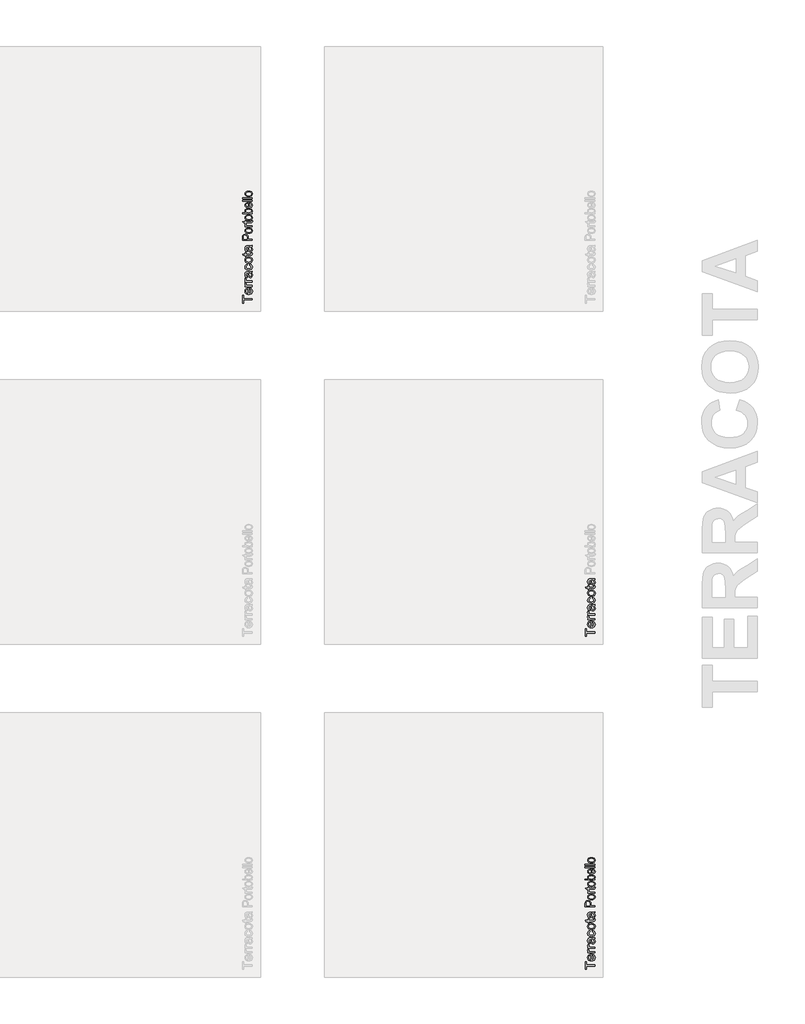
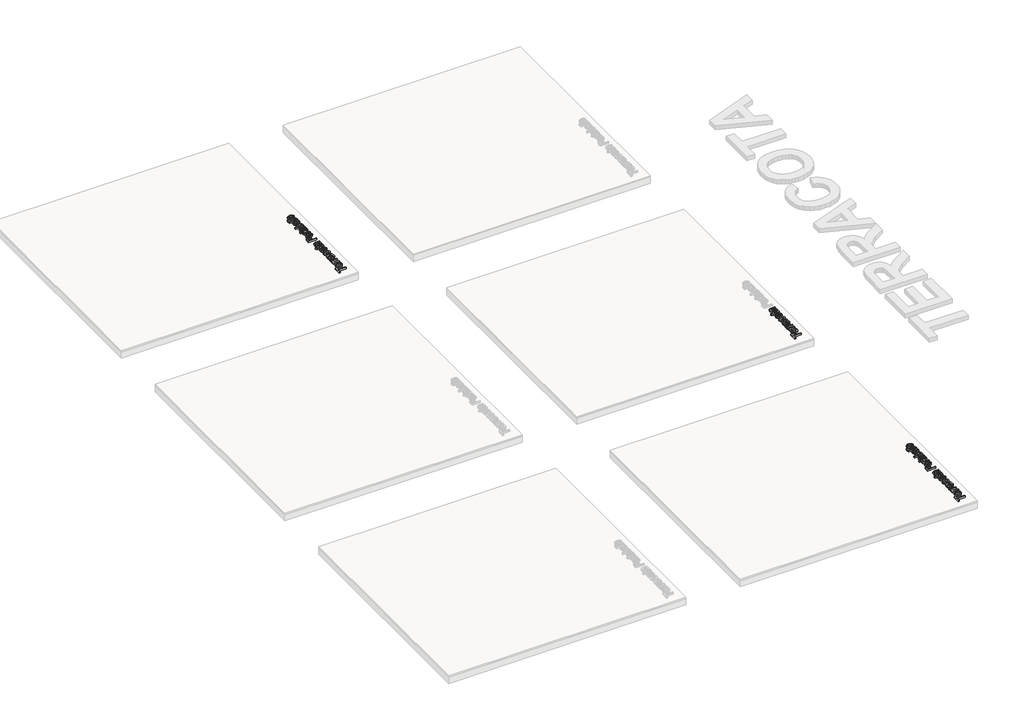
# One storey, part 10 of 12: 5 proxies.
"""IFC4 building model written with IfcOpenShell, lengths in millimetres."""

from ifc_helpers import new_model, si_unit, frame, origin, place, context, project, spatial, polyline, outline, extrude, element, save

model = new_model("IFC4")

# Units and contexts
model_context = context("Model", 3, world=origin())
ifc_project = project(units=[si_unit("LENGTHUNIT", "METRE", prefix="MILLI")], contexts=[model_context])

# Site, building, storey
site = spatial("IfcSite", under=ifc_project)
building = spatial("IfcBuilding", under=site)
storey = spatial("IfcBuildingStorey", under=building, Name="PORTOBELLO - SHOWROOM", Elevation=0.0)

# Proxies
placement = place(None, origin())
element("IfcBuildingElementProxy", 1, Name="10mm Arial", ObjectType="10mm Arial", at=placement, inside=storey, context=model_context, shape_type="SweptSolid", body=[
    extrude(outline(polyline([(-15769.6004774, 1957.1715522), (-15857.4997488, 1957.1715522), (-15857.4997488, 1924.2093254), (-15870.0567876, 1924.2093254), (-15870.0567876, 2002.6908177), (-15857.4997488, 2002.6908177), (-15857.4997488, 1969.7285909), (-15769.6004774, 1969.7285909), (-15769.6004774, 1957.1715522)])), frame((0.0, 0.0, 17.0), z_axis=(0.0, 0.0, 1.0), x_axis=(1.0, 0.0, 0.0)), (0.0, 0.0, 1.0), 20.0),
    extrude(outline(polyline([(-15791.5752953, 2066.8984886), (-15790.0056654, 2079.2102727), (-15780.7289078, 2074.774229), (-15773.7943322, 2067.6955663), (-15769.4717187, 2058.1337001), (-15768.0308476, 2046.2480459), (-15770.5171167, 2031.514372), (-15777.9759242, 2020.1774752), (-15789.922892, 2012.948594), (-15805.8736422, 2010.5389669), (-15822.3608869, 2012.9731195), (-15834.6910651, 2020.2755771), (-15842.3797988, 2031.4591897), (-15844.94271, 2045.5368074), (-15842.3859302, 2059.1760324), (-15834.7155906, 2070.0745365), (-15822.4099378, 2077.2206442), (-15805.9472185, 2079.6026802), (-15802.5627042, 2079.5291038), (-15802.5627042, 2023.0960057), (-15793.1633192, 2025.2695752), (-15786.2532691, 2030.3187555), (-15782.004232, 2037.6058847), (-15780.5878863, 2046.4933006), (-15783.2121112, 2058.8050847), (-15791.5752953, 2066.8984886)]), holes=[polyline([(-15815.119743, 2023.0960057), (-15815.119743, 2067.0456414), (-15826.4995593, 2062.0179208), (-15830.9141433, 2054.6970691), (-15832.3856713, 2045.4877565), (-15827.6890445, 2030.02445), (-15822.1984057, 2025.1592106), (-15815.119743, 2023.0960057)])]), frame((0.0, 0.0, 17.0), z_axis=(0.0, 0.0, 1.0), x_axis=(1.0, 0.0, 0.0)), (0.0, 0.0, 1.0), 20.0),
    extrude(outline(polyline([(-15769.6004774, 2092.1597189), (-15843.3730802, 2092.1597189), (-15843.3730802, 2103.1471279), (-15832.4592477, 2103.1471279), (-15842.5146889, 2110.9462262), (-15844.94271, 2118.7943754), (-15841.0676864, 2131.4004651), (-15829.8104973, 2127.2066103), (-15832.3856713, 2118.3774425), (-15829.9085992, 2111.27732), (-15823.0414686, 2106.7523714), (-15808.3752397, 2104.7167577), (-15769.6004774, 2104.7167577), (-15769.6004774, 2092.1597189)])), frame((0.0, 0.0, 17.0), z_axis=(0.0, 0.0, 1.0), x_axis=(1.0, 0.0, 0.0)), (0.0, 0.0, 1.0), 20.0),
    extrude(outline(polyline([(-15769.6004774, 2139.2486143), (-15843.3730802, 2139.2486143), (-15843.3730802, 2150.2360232), (-15832.4592477, 2150.2360232), (-15842.5146889, 2158.0351215), (-15844.94271, 2165.8832708), (-15841.0676864, 2178.4893605), (-15829.8104973, 2174.2955057), (-15832.3856713, 2165.4663378), (-15829.9085992, 2158.3662153), (-15823.0414686, 2153.8412668), (-15808.3752397, 2151.8056531), (-15769.6004774, 2151.8056531), (-15769.6004774, 2139.2486143)])), frame((0.0, 0.0, 17.0), z_axis=(0.0, 0.0, 1.0), x_axis=(1.0, 0.0, 0.0)), (0.0, 0.0, 1.0), 20.0),
    extrude(outline(polyline([(-15779.0182565, 2233.4264051), (-15770.5079197, 2221.249511), (-15768.0308476, 2207.7972928), (-15769.5207697, 2197.3034588), (-15773.9905359, 2189.5626085), (-15780.7779587, 2184.7893396), (-15789.2208505, 2183.19825), (-15799.1536644, 2185.6017457), (-15806.3641515, 2191.9170533), (-15810.4844298, 2200.709433), (-15812.3728907, 2211.5742146), (-15816.6893728, 2233.3528287), (-15819.485276, 2233.4264051), (-15828.7559023, 2229.9683143), (-15832.3856713, 2216.0869004), (-15829.9699128, 2203.3827088), (-15821.3982623, 2197.3249186), (-15822.9678922, 2184.7678799), (-15835.2306254, 2190.2002707), (-15842.416587, 2201.1386286), (-15844.94271, 2217.7055812), (-15842.7108926, 2232.923633), (-15837.1068235, 2241.519809), (-15828.584224, 2245.3703072), (-15817.5968151, 2245.9834439), (-15801.974093, 2245.9834439), (-15780.1586907, 2246.621106), (-15769.6004774, 2249.1227035), (-15769.6004774, 2236.5656648), (-15779.0182565, 2233.4264051)]), holes=[polyline([(-15804.132334, 2233.4264051), (-15800.2818358, 2213.1683699), (-15798.2462221, 2202.364902), (-15794.9352842, 2197.4720714), (-15790.1037673, 2195.7552888), (-15783.3102131, 2199.4954224), (-15780.5878863, 2210.4705686), (-15783.592256, 2223.1747602), (-15790.8640567, 2231.3662659), (-15800.5761414, 2233.3528287), (-15804.132334, 2233.4264051)])]), frame((0.0, 0.0, 17.0), z_axis=(0.0, 0.0, 1.0), x_axis=(1.0, 0.0, 0.0)), (0.0, 0.0, 1.0), 20.0),
    extrude(outline(polyline([(-15796.2841848, 2310.3382675), (-15794.714555, 2322.8953063), (-15783.5462707, 2319.394296), (-15775.1064446, 2312.8153396), (-15769.7997468, 2303.7777053), (-15768.0308476, 2292.900661), (-15770.4987226, 2279.5434789), (-15777.9023478, 2269.0986959), (-15789.9167606, 2262.3572583), (-15806.2169987, 2260.1101125), (-15827.0759078, 2263.948348), (-15840.4790752, 2275.6469954), (-15844.94271, 2292.7289827), (-15843.4098684, 2303.3393126), (-15838.8113435, 2311.8220583), (-15831.3923899, 2317.9074396), (-15821.3982623, 2321.3256765), (-15819.8286325, 2308.7686377), (-15829.2341488, 2302.9438394), (-15832.3856713, 2292.8270846), (-15830.8344355, 2284.7122209), (-15826.1807283, 2278.2712203), (-15818.1731635, 2274.0681685), (-15806.5603552, 2272.6671512), (-15794.791197, 2274.0375117), (-15786.7560411, 2278.148593), (-15782.129925, 2284.4730976), (-15780.5878863, 2292.483728), (-15784.4383846, 2304.3172656), (-15796.2841848, 2310.3382675)])), frame((0.0, 0.0, 17.0), z_axis=(0.0, 0.0, 1.0), x_axis=(1.0, 0.0, 0.0)), (0.0, 0.0, 1.0), 20.0),
    extrude(outline(polyline([(-15806.4867788, 2330.7434555), (-15824.2738733, 2333.4596509), (-15836.7757297, 2341.6082371), (-15842.900965, 2351.6759411), (-15844.94271, 2363.7302078), (-15842.4564409, 2376.921843), (-15834.9976334, 2387.4585965), (-15823.1548989, 2394.3655809), (-15807.5168484, 2396.6679091), (-15785.1741486, 2392.5966817), (-15772.5312707, 2380.7386187), (-15768.0308476, 2363.7302078), (-15770.5079197, 2350.379157), (-15777.939136, 2339.8546663), (-15790.0301909, 2333.0212582), (-15806.4867788, 2330.7434555)]), holes=[polyline([(-15806.5113043, 2343.3004943), (-15795.1468163, 2344.7536282), (-15787.0503467, 2349.1130298), (-15782.2035014, 2355.6735921), (-15780.5878863, 2363.7302078), (-15782.2126985, 2371.7500353), (-15787.0871349, 2378.2983348), (-15795.2909034, 2382.6577364), (-15806.9037117, 2384.1108703), (-15817.9371059, 2382.6485394), (-15825.9232109, 2378.2615466), (-15830.7700562, 2371.70405), (-15832.3856713, 2363.7302078), (-15830.7761875, 2355.6735921), (-15825.9477364, 2349.1130298), (-15817.8696609, 2344.7536282), (-15806.5113043, 2343.3004943)])]), frame((0.0, 0.0, 17.0), z_axis=(0.0, 0.0, 1.0), x_axis=(1.0, 0.0, 0.0)), (0.0, 0.0, 1.0), 20.0),
    extrude(outline(polyline([(-15780.0728516, 2437.4782851), (-15769.2325954, 2439.0479149), (-15768.0308476, 2429.6546613), (-15770.1155122, 2419.1332363), (-15775.5846912, 2413.8847865), (-15789.8339872, 2412.3642075), (-15830.8160414, 2412.3642075), (-15830.8160414, 2402.9464285), (-15843.3730802, 2402.9464285), (-15843.3730802, 2412.3642075), (-15861.3011961, 2412.3642075), (-15868.6833615, 2424.9212463), (-15843.3730802, 2424.9212463), (-15843.3730802, 2437.4782851), (-15830.8160414, 2437.4782851), (-15830.8160414, 2424.9212463), (-15790.2018692, 2424.9212463), (-15783.727146, 2425.5834339), (-15781.4340149, 2427.7294122), (-15780.5878863, 2432.0091061), (-15780.0728516, 2437.4782851)])), frame((0.0, 0.0, 17.0), z_axis=(0.0, 0.0, 1.0), x_axis=(1.0, 0.0, 0.0)), (0.0, 0.0, 1.0), 20.0),
    extrude(outline(polyline([(-15779.0182565, 2497.1242192), (-15770.5079197, 2484.9473252), (-15768.0308476, 2471.4951069), (-15769.5207697, 2461.001273), (-15773.9905359, 2453.2604227), (-15780.7779587, 2448.4871538), (-15789.2208505, 2446.8960642), (-15799.1536644, 2449.2995599), (-15806.3641515, 2455.6148674), (-15810.4844298, 2464.4072471), (-15812.3728907, 2475.2720287), (-15816.6893728, 2497.0506428), (-15819.485276, 2497.1242192), (-15828.7559023, 2493.6661285), (-15832.3856713, 2479.7847145), (-15829.9699128, 2467.080523), (-15821.3982623, 2461.0227328), (-15822.9678922, 2448.465694), (-15835.2306254, 2453.8980848), (-15842.416587, 2464.8364428), (-15844.94271, 2481.4033953), (-15842.7108926, 2496.6214472), (-15837.1068235, 2505.2176231), (-15828.584224, 2509.0681213), (-15817.5968151, 2509.681258), (-15801.974093, 2509.681258), (-15780.1586907, 2510.3189201), (-15769.6004774, 2512.8205177), (-15769.6004774, 2500.2634789), (-15779.0182565, 2497.1242192)]), holes=[polyline([(-15804.132334, 2497.1242192), (-15800.2818358, 2476.866184), (-15798.2462221, 2466.0627161), (-15794.9352842, 2461.1698856), (-15790.1037673, 2459.4531029), (-15783.3102131, 2463.1932365), (-15780.5878863, 2474.1683827), (-15783.592256, 2486.8725743), (-15790.8640567, 2495.0640801), (-15800.5761414, 2497.0506428), (-15804.132334, 2497.1242192)])]), frame((0.0, 0.0, 17.0), z_axis=(0.0, 0.0, 1.0), x_axis=(1.0, 0.0, 0.0)), (0.0, 0.0, 1.0), 20.0),
])
element("IfcBuildingElementProxy", 2, Name="10mm Arial", ObjectType="10mm Arial", at=placement, inside=storey, context=model_context, shape_type="SweptSolid", body=[
    extrude(outline(polyline([(-19269.6004774, 8757.1715522), (-19357.4997488, 8757.1715522), (-19357.4997488, 8724.2093254), (-19370.0567876, 8724.2093254), (-19370.0567876, 8802.6908177), (-19357.4997488, 8802.6908177), (-19357.4997488, 8769.7285909), (-19269.6004774, 8769.7285909), (-19269.6004774, 8757.1715522)])), frame((0.0, 0.0, 17.0), z_axis=(0.0, 0.0, 1.0), x_axis=(1.0, 0.0, 0.0)), (0.0, 0.0, 1.0), 20.0),
    extrude(outline(polyline([(-19291.5752953, 8866.8984886), (-19290.0056654, 8879.2102727), (-19280.7289078, 8874.774229), (-19273.7943322, 8867.6955663), (-19269.4717187, 8858.1337001), (-19268.0308476, 8846.2480459), (-19270.5171167, 8831.514372), (-19277.9759242, 8820.1774752), (-19289.922892, 8812.948594), (-19305.8736422, 8810.5389669), (-19322.3608869, 8812.9731195), (-19334.6910651, 8820.2755771), (-19342.3797988, 8831.4591897), (-19344.94271, 8845.5368074), (-19342.3859302, 8859.1760324), (-19334.7155906, 8870.0745365), (-19322.4099378, 8877.2206442), (-19305.9472185, 8879.6026802), (-19302.5627042, 8879.5291038), (-19302.5627042, 8823.0960057), (-19293.1633192, 8825.2695752), (-19286.2532691, 8830.3187555), (-19282.004232, 8837.6058847), (-19280.5878863, 8846.4933006), (-19283.2121112, 8858.8050847), (-19291.5752953, 8866.8984886)]), holes=[polyline([(-19315.119743, 8823.0960057), (-19315.119743, 8867.0456414), (-19326.4995593, 8862.0179208), (-19330.9141433, 8854.6970691), (-19332.3856713, 8845.4877565), (-19327.6890445, 8830.02445), (-19322.1984057, 8825.1592106), (-19315.119743, 8823.0960057)])]), frame((0.0, 0.0, 17.0), z_axis=(0.0, 0.0, 1.0), x_axis=(1.0, 0.0, 0.0)), (0.0, 0.0, 1.0), 20.0),
    extrude(outline(polyline([(-19269.6004774, 8892.1597189), (-19343.3730802, 8892.1597189), (-19343.3730802, 8903.1471279), (-19332.4592477, 8903.1471279), (-19342.5146889, 8910.9462262), (-19344.94271, 8918.7943754), (-19341.0676864, 8931.4004651), (-19329.8104973, 8927.2066103), (-19332.3856713, 8918.3774425), (-19329.9085992, 8911.27732), (-19323.0414686, 8906.7523714), (-19308.3752397, 8904.7167577), (-19269.6004774, 8904.7167577), (-19269.6004774, 8892.1597189)])), frame((0.0, 0.0, 17.0), z_axis=(0.0, 0.0, 1.0), x_axis=(1.0, 0.0, 0.0)), (0.0, 0.0, 1.0), 20.0),
    extrude(outline(polyline([(-19269.6004774, 8939.2486143), (-19343.3730802, 8939.2486143), (-19343.3730802, 8950.2360232), (-19332.4592477, 8950.2360232), (-19342.5146889, 8958.0351215), (-19344.94271, 8965.8832708), (-19341.0676864, 8978.4893605), (-19329.8104973, 8974.2955057), (-19332.3856713, 8965.4663378), (-19329.9085992, 8958.3662153), (-19323.0414686, 8953.8412668), (-19308.3752397, 8951.8056531), (-19269.6004774, 8951.8056531), (-19269.6004774, 8939.2486143)])), frame((0.0, 0.0, 17.0), z_axis=(0.0, 0.0, 1.0), x_axis=(1.0, 0.0, 0.0)), (0.0, 0.0, 1.0), 20.0),
    extrude(outline(polyline([(-19279.0182565, 9033.4264051), (-19270.5079197, 9021.249511), (-19268.0308476, 9007.7972928), (-19269.5207697, 8997.3034588), (-19273.9905359, 8989.5626085), (-19280.7779587, 8984.7893396), (-19289.2208505, 8983.19825), (-19299.1536644, 8985.6017457), (-19306.3641515, 8991.9170533), (-19310.4844298, 9000.709433), (-19312.3728907, 9011.5742146), (-19316.6893728, 9033.3528287), (-19319.485276, 9033.4264051), (-19328.7559023, 9029.9683143), (-19332.3856713, 9016.0869004), (-19329.9699128, 9003.3827088), (-19321.3982623, 8997.3249186), (-19322.9678922, 8984.7678799), (-19335.2306254, 8990.2002707), (-19342.416587, 9001.1386286), (-19344.94271, 9017.7055812), (-19342.7108926, 9032.923633), (-19337.1068235, 9041.519809), (-19328.584224, 9045.3703072), (-19317.5968151, 9045.9834439), (-19301.974093, 9045.9834439), (-19280.1586907, 9046.621106), (-19269.6004774, 9049.1227035), (-19269.6004774, 9036.5656648), (-19279.0182565, 9033.4264051)]), holes=[polyline([(-19304.132334, 9033.4264051), (-19300.2818358, 9013.1683699), (-19298.2462221, 9002.364902), (-19294.9352842, 8997.4720714), (-19290.1037673, 8995.7552888), (-19283.3102131, 8999.4954224), (-19280.5878863, 9010.4705686), (-19283.592256, 9023.1747602), (-19290.8640567, 9031.3662659), (-19300.5761414, 9033.3528287), (-19304.132334, 9033.4264051)])]), frame((0.0, 0.0, 17.0), z_axis=(0.0, 0.0, 1.0), x_axis=(1.0, 0.0, 0.0)), (0.0, 0.0, 1.0), 20.0),
    extrude(outline(polyline([(-19296.2841848, 9110.3382675), (-19294.714555, 9122.8953063), (-19283.5462707, 9119.394296), (-19275.1064446, 9112.8153396), (-19269.7997468, 9103.7777053), (-19268.0308476, 9092.900661), (-19270.4987226, 9079.5434789), (-19277.9023478, 9069.0986959), (-19289.9167606, 9062.3572583), (-19306.2169987, 9060.1101125), (-19327.0759078, 9063.948348), (-19340.4790752, 9075.6469954), (-19344.94271, 9092.7289827), (-19343.4098684, 9103.3393126), (-19338.8113435, 9111.8220583), (-19331.3923899, 9117.9074396), (-19321.3982623, 9121.3256765), (-19319.8286325, 9108.7686377), (-19329.2341488, 9102.9438394), (-19332.3856713, 9092.8270846), (-19330.8344355, 9084.7122209), (-19326.1807283, 9078.2712203), (-19318.1731635, 9074.0681685), (-19306.5603552, 9072.6671512), (-19294.791197, 9074.0375117), (-19286.7560411, 9078.148593), (-19282.129925, 9084.4730976), (-19280.5878863, 9092.483728), (-19284.4383846, 9104.3172656), (-19296.2841848, 9110.3382675)])), frame((0.0, 0.0, 17.0), z_axis=(0.0, 0.0, 1.0), x_axis=(1.0, 0.0, 0.0)), (0.0, 0.0, 1.0), 20.0),
    extrude(outline(polyline([(-19306.4867788, 9130.7434555), (-19324.2738733, 9133.4596509), (-19336.7757297, 9141.6082371), (-19342.900965, 9151.6759411), (-19344.94271, 9163.7302078), (-19342.4564409, 9176.921843), (-19334.9976334, 9187.4585965), (-19323.1548989, 9194.3655809), (-19307.5168484, 9196.6679091), (-19285.1741486, 9192.5966817), (-19272.5312707, 9180.7386187), (-19268.0308476, 9163.7302078), (-19270.5079197, 9150.379157), (-19277.939136, 9139.8546663), (-19290.0301909, 9133.0212582), (-19306.4867788, 9130.7434555)]), holes=[polyline([(-19306.5113043, 9143.3004943), (-19295.1468163, 9144.7536282), (-19287.0503467, 9149.1130298), (-19282.2035014, 9155.6735921), (-19280.5878863, 9163.7302078), (-19282.2126985, 9171.7500353), (-19287.0871349, 9178.2983348), (-19295.2909034, 9182.6577364), (-19306.9037117, 9184.1108703), (-19317.9371059, 9182.6485394), (-19325.9232109, 9178.2615466), (-19330.7700562, 9171.70405), (-19332.3856713, 9163.7302078), (-19330.7761875, 9155.6735921), (-19325.9477364, 9149.1130298), (-19317.8696609, 9144.7536282), (-19306.5113043, 9143.3004943)])]), frame((0.0, 0.0, 17.0), z_axis=(0.0, 0.0, 1.0), x_axis=(1.0, 0.0, 0.0)), (0.0, 0.0, 1.0), 20.0),
    extrude(outline(polyline([(-19280.0728516, 9237.4782851), (-19269.2325954, 9239.0479149), (-19268.0308476, 9229.6546613), (-19270.1155122, 9219.1332363), (-19275.5846912, 9213.8847865), (-19289.8339872, 9212.3642075), (-19330.8160414, 9212.3642075), (-19330.8160414, 9202.9464285), (-19343.3730802, 9202.9464285), (-19343.3730802, 9212.3642075), (-19361.3011961, 9212.3642075), (-19368.6833615, 9224.9212463), (-19343.3730802, 9224.9212463), (-19343.3730802, 9237.4782851), (-19330.8160414, 9237.4782851), (-19330.8160414, 9224.9212463), (-19290.2018692, 9224.9212463), (-19283.727146, 9225.5834339), (-19281.4340149, 9227.7294122), (-19280.5878863, 9232.0091061), (-19280.0728516, 9237.4782851)])), frame((0.0, 0.0, 17.0), z_axis=(0.0, 0.0, 1.0), x_axis=(1.0, 0.0, 0.0)), (0.0, 0.0, 1.0), 20.0),
    extrude(outline(polyline([(-19279.0182565, 9297.1242192), (-19270.5079197, 9284.9473252), (-19268.0308476, 9271.4951069), (-19269.5207697, 9261.001273), (-19273.9905359, 9253.2604227), (-19280.7779587, 9248.4871538), (-19289.2208505, 9246.8960642), (-19299.1536644, 9249.2995599), (-19306.3641515, 9255.6148674), (-19310.4844298, 9264.4072471), (-19312.3728907, 9275.2720287), (-19316.6893728, 9297.0506428), (-19319.485276, 9297.1242192), (-19328.7559023, 9293.6661285), (-19332.3856713, 9279.7847145), (-19329.9699128, 9267.080523), (-19321.3982623, 9261.0227328), (-19322.9678922, 9248.465694), (-19335.2306254, 9253.8980848), (-19342.416587, 9264.8364428), (-19344.94271, 9281.4033953), (-19342.7108926, 9296.6214472), (-19337.1068235, 9305.2176231), (-19328.584224, 9309.0681213), (-19317.5968151, 9309.681258), (-19301.974093, 9309.681258), (-19280.1586907, 9310.3189201), (-19269.6004774, 9312.8205177), (-19269.6004774, 9300.2634789), (-19279.0182565, 9297.1242192)]), holes=[polyline([(-19304.132334, 9297.1242192), (-19300.2818358, 9276.866184), (-19298.2462221, 9266.0627161), (-19294.9352842, 9261.1698856), (-19290.1037673, 9259.4531029), (-19283.3102131, 9263.1932365), (-19280.5878863, 9274.1683827), (-19283.592256, 9286.8725743), (-19290.8640567, 9295.0640801), (-19300.5761414, 9297.0506428), (-19304.132334, 9297.1242192)])]), frame((0.0, 0.0, 17.0), z_axis=(0.0, 0.0, 1.0), x_axis=(1.0, 0.0, 0.0)), (0.0, 0.0, 1.0), 20.0),
])
element("IfcBuildingElementProxy", 3, Name="10mm Arial", ObjectType="10mm Arial", at=placement, inside=storey, context=model_context, shape_type="SweptSolid", body=[
    extrude(outline(polyline([(-15769.6004774, 5357.1715522), (-15857.4997488, 5357.1715522), (-15857.4997488, 5324.2093254), (-15870.0567876, 5324.2093254), (-15870.0567876, 5402.6908177), (-15857.4997488, 5402.6908177), (-15857.4997488, 5369.7285909), (-15769.6004774, 5369.7285909), (-15769.6004774, 5357.1715522)])), frame((0.0, 0.0, 17.0), z_axis=(0.0, 0.0, 1.0), x_axis=(1.0, 0.0, 0.0)), (0.0, 0.0, 1.0), 20.0),
    extrude(outline(polyline([(-15791.5752953, 5466.8984886), (-15790.0056654, 5479.2102727), (-15780.7289078, 5474.774229), (-15773.7943322, 5467.6955663), (-15769.4717187, 5458.1337001), (-15768.0308476, 5446.2480459), (-15770.5171167, 5431.514372), (-15777.9759242, 5420.1774752), (-15789.922892, 5412.948594), (-15805.8736422, 5410.5389669), (-15822.3608869, 5412.9731195), (-15834.6910651, 5420.2755771), (-15842.3797988, 5431.4591897), (-15844.94271, 5445.5368074), (-15842.3859302, 5459.1760324), (-15834.7155906, 5470.0745365), (-15822.4099378, 5477.2206442), (-15805.9472185, 5479.6026802), (-15802.5627042, 5479.5291038), (-15802.5627042, 5423.0960057), (-15793.1633192, 5425.2695752), (-15786.2532691, 5430.3187555), (-15782.004232, 5437.6058847), (-15780.5878863, 5446.4933006), (-15783.2121112, 5458.8050847), (-15791.5752953, 5466.8984886)]), holes=[polyline([(-15815.119743, 5423.0960057), (-15815.119743, 5467.0456414), (-15826.4995593, 5462.0179208), (-15830.9141433, 5454.6970691), (-15832.3856713, 5445.4877565), (-15827.6890445, 5430.02445), (-15822.1984057, 5425.1592106), (-15815.119743, 5423.0960057)])]), frame((0.0, 0.0, 17.0), z_axis=(0.0, 0.0, 1.0), x_axis=(1.0, 0.0, 0.0)), (0.0, 0.0, 1.0), 20.0),
    extrude(outline(polyline([(-15769.6004774, 5492.1597189), (-15843.3730802, 5492.1597189), (-15843.3730802, 5503.1471279), (-15832.4592477, 5503.1471279), (-15842.5146889, 5510.9462262), (-15844.94271, 5518.7943754), (-15841.0676864, 5531.4004651), (-15829.8104973, 5527.2066103), (-15832.3856713, 5518.3774425), (-15829.9085992, 5511.27732), (-15823.0414686, 5506.7523714), (-15808.3752397, 5504.7167577), (-15769.6004774, 5504.7167577), (-15769.6004774, 5492.1597189)])), frame((0.0, 0.0, 17.0), z_axis=(0.0, 0.0, 1.0), x_axis=(1.0, 0.0, 0.0)), (0.0, 0.0, 1.0), 20.0),
    extrude(outline(polyline([(-15769.6004774, 5539.2486143), (-15843.3730802, 5539.2486143), (-15843.3730802, 5550.2360232), (-15832.4592477, 5550.2360232), (-15842.5146889, 5558.0351215), (-15844.94271, 5565.8832708), (-15841.0676864, 5578.4893605), (-15829.8104973, 5574.2955057), (-15832.3856713, 5565.4663378), (-15829.9085992, 5558.3662153), (-15823.0414686, 5553.8412668), (-15808.3752397, 5551.8056531), (-15769.6004774, 5551.8056531), (-15769.6004774, 5539.2486143)])), frame((0.0, 0.0, 17.0), z_axis=(0.0, 0.0, 1.0), x_axis=(1.0, 0.0, 0.0)), (0.0, 0.0, 1.0), 20.0),
    extrude(outline(polyline([(-15779.0182565, 5633.4264051), (-15770.5079197, 5621.249511), (-15768.0308476, 5607.7972928), (-15769.5207697, 5597.3034588), (-15773.9905359, 5589.5626085), (-15780.7779587, 5584.7893396), (-15789.2208505, 5583.19825), (-15799.1536644, 5585.6017457), (-15806.3641515, 5591.9170533), (-15810.4844298, 5600.709433), (-15812.3728907, 5611.5742146), (-15816.6893728, 5633.3528287), (-15819.485276, 5633.4264051), (-15828.7559023, 5629.9683143), (-15832.3856713, 5616.0869004), (-15829.9699128, 5603.3827088), (-15821.3982623, 5597.3249186), (-15822.9678922, 5584.7678799), (-15835.2306254, 5590.2002707), (-15842.416587, 5601.1386286), (-15844.94271, 5617.7055812), (-15842.7108926, 5632.923633), (-15837.1068235, 5641.519809), (-15828.584224, 5645.3703072), (-15817.5968151, 5645.9834439), (-15801.974093, 5645.9834439), (-15780.1586907, 5646.621106), (-15769.6004774, 5649.1227035), (-15769.6004774, 5636.5656648), (-15779.0182565, 5633.4264051)]), holes=[polyline([(-15804.132334, 5633.4264051), (-15800.2818358, 5613.1683699), (-15798.2462221, 5602.364902), (-15794.9352842, 5597.4720714), (-15790.1037673, 5595.7552888), (-15783.3102131, 5599.4954224), (-15780.5878863, 5610.4705686), (-15783.592256, 5623.1747602), (-15790.8640567, 5631.3662659), (-15800.5761414, 5633.3528287), (-15804.132334, 5633.4264051)])]), frame((0.0, 0.0, 17.0), z_axis=(0.0, 0.0, 1.0), x_axis=(1.0, 0.0, 0.0)), (0.0, 0.0, 1.0), 20.0),
    extrude(outline(polyline([(-15796.2841848, 5710.3382675), (-15794.714555, 5722.8953063), (-15783.5462707, 5719.394296), (-15775.1064446, 5712.8153396), (-15769.7997468, 5703.7777053), (-15768.0308476, 5692.900661), (-15770.4987226, 5679.5434789), (-15777.9023478, 5669.0986959), (-15789.9167606, 5662.3572583), (-15806.2169987, 5660.1101125), (-15827.0759078, 5663.948348), (-15840.4790752, 5675.6469954), (-15844.94271, 5692.7289827), (-15843.4098684, 5703.3393126), (-15838.8113435, 5711.8220583), (-15831.3923899, 5717.9074396), (-15821.3982623, 5721.3256765), (-15819.8286325, 5708.7686377), (-15829.2341488, 5702.9438394), (-15832.3856713, 5692.8270846), (-15830.8344355, 5684.7122209), (-15826.1807283, 5678.2712203), (-15818.1731635, 5674.0681685), (-15806.5603552, 5672.6671512), (-15794.791197, 5674.0375117), (-15786.7560411, 5678.148593), (-15782.129925, 5684.4730976), (-15780.5878863, 5692.483728), (-15784.4383846, 5704.3172656), (-15796.2841848, 5710.3382675)])), frame((0.0, 0.0, 17.0), z_axis=(0.0, 0.0, 1.0), x_axis=(1.0, 0.0, 0.0)), (0.0, 0.0, 1.0), 20.0),
    extrude(outline(polyline([(-15806.4867788, 5730.7434555), (-15824.2738733, 5733.4596509), (-15836.7757297, 5741.6082371), (-15842.900965, 5751.6759411), (-15844.94271, 5763.7302078), (-15842.4564409, 5776.921843), (-15834.9976334, 5787.4585965), (-15823.1548989, 5794.3655809), (-15807.5168484, 5796.6679091), (-15785.1741486, 5792.5966817), (-15772.5312707, 5780.7386187), (-15768.0308476, 5763.7302078), (-15770.5079197, 5750.379157), (-15777.939136, 5739.8546663), (-15790.0301909, 5733.0212582), (-15806.4867788, 5730.7434555)]), holes=[polyline([(-15806.5113043, 5743.3004943), (-15795.1468163, 5744.7536282), (-15787.0503467, 5749.1130298), (-15782.2035014, 5755.6735921), (-15780.5878863, 5763.7302078), (-15782.2126985, 5771.7500353), (-15787.0871349, 5778.2983348), (-15795.2909034, 5782.6577364), (-15806.9037117, 5784.1108703), (-15817.9371059, 5782.6485394), (-15825.9232109, 5778.2615466), (-15830.7700562, 5771.70405), (-15832.3856713, 5763.7302078), (-15830.7761875, 5755.6735921), (-15825.9477364, 5749.1130298), (-15817.8696609, 5744.7536282), (-15806.5113043, 5743.3004943)])]), frame((0.0, 0.0, 17.0), z_axis=(0.0, 0.0, 1.0), x_axis=(1.0, 0.0, 0.0)), (0.0, 0.0, 1.0), 20.0),
    extrude(outline(polyline([(-15780.0728516, 5837.4782851), (-15769.2325954, 5839.0479149), (-15768.0308476, 5829.6546613), (-15770.1155122, 5819.1332363), (-15775.5846912, 5813.8847865), (-15789.8339872, 5812.3642075), (-15830.8160414, 5812.3642075), (-15830.8160414, 5802.9464285), (-15843.3730802, 5802.9464285), (-15843.3730802, 5812.3642075), (-15861.3011961, 5812.3642075), (-15868.6833615, 5824.9212463), (-15843.3730802, 5824.9212463), (-15843.3730802, 5837.4782851), (-15830.8160414, 5837.4782851), (-15830.8160414, 5824.9212463), (-15790.2018692, 5824.9212463), (-15783.727146, 5825.5834339), (-15781.4340149, 5827.7294122), (-15780.5878863, 5832.0091061), (-15780.0728516, 5837.4782851)])), frame((0.0, 0.0, 17.0), z_axis=(0.0, 0.0, 1.0), x_axis=(1.0, 0.0, 0.0)), (0.0, 0.0, 1.0), 20.0),
    extrude(outline(polyline([(-15779.0182565, 5897.1242192), (-15770.5079197, 5884.9473252), (-15768.0308476, 5871.4951069), (-15769.5207697, 5861.001273), (-15773.9905359, 5853.2604227), (-15780.7779587, 5848.4871538), (-15789.2208505, 5846.8960642), (-15799.1536644, 5849.2995599), (-15806.3641515, 5855.6148674), (-15810.4844298, 5864.4072471), (-15812.3728907, 5875.2720287), (-15816.6893728, 5897.0506428), (-15819.485276, 5897.1242192), (-15828.7559023, 5893.6661285), (-15832.3856713, 5879.7847145), (-15829.9699128, 5867.080523), (-15821.3982623, 5861.0227328), (-15822.9678922, 5848.465694), (-15835.2306254, 5853.8980848), (-15842.416587, 5864.8364428), (-15844.94271, 5881.4033953), (-15842.7108926, 5896.6214472), (-15837.1068235, 5905.2176231), (-15828.584224, 5909.0681213), (-15817.5968151, 5909.681258), (-15801.974093, 5909.681258), (-15780.1586907, 5910.3189201), (-15769.6004774, 5912.8205177), (-15769.6004774, 5900.2634789), (-15779.0182565, 5897.1242192)]), holes=[polyline([(-15804.132334, 5897.1242192), (-15800.2818358, 5876.866184), (-15798.2462221, 5866.0627161), (-15794.9352842, 5861.1698856), (-15790.1037673, 5859.4531029), (-15783.3102131, 5863.1932365), (-15780.5878863, 5874.1683827), (-15783.592256, 5886.8725743), (-15790.8640567, 5895.0640801), (-15800.5761414, 5897.0506428), (-15804.132334, 5897.1242192)])]), frame((0.0, 0.0, 17.0), z_axis=(0.0, 0.0, 1.0), x_axis=(1.0, 0.0, 0.0)), (0.0, 0.0, 1.0), 20.0),
])
element("IfcBuildingElementProxy", 4, Name="10mm Arial Narrow", ObjectType="10mm Arial Narrow", at=placement, inside=storey, context=model_context, shape_type="SweptSolid", body=[
    extrude(outline(polyline([(-15769.6004774, 2564.3713743), (-15870.3190812, 2564.3713743), (-15870.3190812, 2595.6682589), (-15868.4407604, 2611.9639605), (-15858.9603173, 2623.4369466), (-15841.9412084, 2627.726625), (-15829.8653829, 2625.9403166), (-15820.2389891, 2620.5813914), (-15813.9377307, 2610.8376026), (-15811.8373113, 2595.8967034), (-15811.8373113, 2574.1183359), (-15769.6004774, 2574.1183359), (-15769.6004774, 2564.3713743)]), holes=[polyline([(-15823.2087665, 2574.1183359), (-15823.2087665, 2597.0896909), (-15827.7395807, 2612.9538863), (-15841.4081715, 2617.9796634), (-15851.5739479, 2615.5048489), (-15857.3738977, 2609.52722), (-15858.9476259, 2596.8612464), (-15858.9476259, 2574.1183359), (-15823.2087665, 2574.1183359)])]), frame((0.0, 0.0, 17.0), z_axis=(0.0, 0.0, 1.0), x_axis=(1.0, 0.0, 0.0)), (0.0, 0.0, 1.0), 20.0),
    extrude(outline(polyline([(-15806.1515836, 2635.8490931), (-15822.7423592, 2637.8035619), (-15834.694444, 2643.6669685), (-15841.9189986, 2652.5255353), (-15844.3271834, 2663.4654844), (-15841.9189986, 2674.27852), (-15834.694444, 2683.1624694), (-15822.9327295, 2689.1020242), (-15806.913065, 2691.0818758), (-15789.7511784, 2689.1369254), (-15777.6087233, 2683.3020743), (-15770.3841687, 2674.4530261), (-15767.9759838, 2663.4654844), (-15770.3905144, 2652.6048562), (-15777.634106, 2643.7304253), (-15789.5925365, 2637.8194261), (-15806.1515836, 2635.8490931)]), holes=[polyline([(-15806.1769663, 2645.5960547), (-15793.6252149, 2646.9000916), (-15784.7539569, 2650.8122022), (-15779.4806983, 2656.6533989), (-15777.7229455, 2663.7446942), (-15779.4965625, 2670.4647674), (-15784.8174137, 2676.1568407), (-15793.7045359, 2680.0403958), (-15806.1769663, 2681.3349141), (-15818.6906437, 2680.0308772), (-15827.5492104, 2676.1187667), (-15832.8224689, 2670.2775699), (-15834.5802218, 2663.1862746), (-15832.8129504, 2656.4186088), (-15827.5111363, 2650.736054), (-15818.6430511, 2646.8810545), (-15806.1769663, 2645.5960547)])]), frame((0.0, 0.0, 17.0), z_axis=(0.0, 0.0, 1.0), x_axis=(1.0, 0.0, 0.0)), (0.0, 0.0, 1.0), 20.0),
    extrude(outline(polyline([(-15777.7229455, 2762.5595946), (-15767.9759838, 2764.1840882), (-15767.9759838, 2756.8231015), (-15770.0954403, 2748.5483372), (-15775.8953902, 2744.233276), (-15790.5412154, 2743.0656712), (-15832.9557282, 2743.0656712), (-15832.9557282, 2734.9432032), (-15836.2047154, 2734.9432032), (-15831.3312346, 2733.3187096), (-15832.9557282, 2725.7546612), (-15830.63321, 2719.6755015), (-15824.1479269, 2715.8046379), (-15808.7406203, 2713.8247863), (-15769.6004774, 2713.8247863), (-15769.6004774, 2704.0778246), (-15842.7026898, 2704.0778246), (-15842.7026898, 2713.8247863), (-15833.0064936, 2713.8247863), (-15842.0935047, 2720.0689336), (-15844.3271834, 2726.4653772), (-15842.7026898, 2734.9432032), (-15842.7026898, 2743.0656712), (-15858.9476259, 2743.0656712), (-15867.070094, 2752.8126329), (-15842.7026898, 2752.8126329), (-15842.7026898, 2762.5595946), (-15832.9557282, 2762.5595946), (-15832.9557282, 2752.8126329), (-15788.3075366, 2752.8126329), (-15780.3119822, 2753.6756451), (-15777.7229455, 2758.2952988), (-15777.7229455, 2762.5595946)])), frame((0.0, 0.0, 17.0), z_axis=(0.0, 0.0, 1.0), x_axis=(1.0, 0.0, 0.0)), (0.0, 0.0, 1.0), 20.0),
    extrude(outline(polyline([(-15806.1515836, 2769.057569), (-15822.7423592, 2771.0120379), (-15834.694444, 2776.8754445), (-15841.9189986, 2785.7340112), (-15844.3271834, 2796.6739603), (-15841.9189986, 2807.4869959), (-15834.694444, 2816.3709453), (-15822.9327295, 2822.3105001), (-15806.913065, 2824.2903517), (-15789.7511784, 2822.3454013), (-15777.6087233, 2816.5105503), (-15770.3841687, 2807.6615021), (-15767.9759838, 2796.6739603), (-15770.3905144, 2785.8133322), (-15777.634106, 2776.9389013), (-15789.5925365, 2771.0279021), (-15806.1515836, 2769.057569)]), holes=[polyline([(-15806.1769663, 2778.8045306), (-15793.6252149, 2780.1085675), (-15784.7539569, 2784.0206781), (-15779.4806983, 2789.8618748), (-15777.7229455, 2796.9531702), (-15779.4965625, 2803.6732433), (-15784.8174137, 2809.3653167), (-15793.7045359, 2813.2488717), (-15806.1769663, 2814.54339), (-15818.6906437, 2813.2393532), (-15827.5492104, 2809.3272426), (-15832.8224689, 2803.4860458), (-15834.5802218, 2796.3947505), (-15832.8129504, 2789.6270847), (-15827.5111363, 2783.94453), (-15818.6430511, 2780.0895305), (-15806.1769663, 2778.8045306)])]), frame((0.0, 0.0, 17.0), z_axis=(0.0, 0.0, 1.0), x_axis=(1.0, 0.0, 0.0)), (0.0, 0.0, 1.0), 20.0),
    extrude(outline(polyline([(-15769.6004774, 2847.0332622), (-15769.6004774, 2837.2863006), (-15870.3190812, 2837.2863006), (-15870.3190812, 2847.0332622), (-15834.910197, 2847.0332622), (-15841.9919739, 2854.4323229), (-15844.3271834, 2863.6335563), (-15840.1263445, 2876.5152829), (-15827.3969141, 2885.7926644), (-15806.7100033, 2889.270096), (-15790.2556598, 2887.337837), (-15778.0529207, 2881.54106), (-15770.495218, 2873.1679377), (-15767.9759838, 2863.5066427), (-15770.5904032, 2854.1658045), (-15778.3575133, 2847.0332622), (-15769.6004774, 2847.0332622)]), holes=[polyline([(-15806.7100033, 2847.0332622), (-15789.4624501, 2849.1146447), (-15780.7307969, 2855.003434), (-15777.7229455, 2863.4558773), (-15779.5124267, 2869.3986049), (-15784.8808704, 2874.6369622), (-15806.3038799, 2879.5231344), (-15827.7395807, 2874.8146412), (-15832.8700615, 2869.5699382), (-15834.5802218, 2863.2528156), (-15832.7907405, 2857.2751868), (-15827.4222968, 2851.9828912), (-15806.7100033, 2847.0332622)])]), frame((0.0, 0.0, 17.0), z_axis=(0.0, 0.0, 1.0), x_axis=(1.0, 0.0, 0.0)), (0.0, 0.0, 1.0), 20.0),
    extrude(outline(polyline([(-15792.343388, 2941.2538915), (-15790.7188943, 2951.0008532), (-15780.8323278, 2947.3013228), (-15773.7124769, 2941.4823359), (-15769.4101071, 2933.7786827), (-15767.9759838, 2924.4251531), (-15770.3905144, 2912.8315991), (-15777.634106, 2903.6874768), (-15789.4402402, 2897.7479221), (-15805.5423985, 2895.7680705), (-15822.2093222, 2897.7574406), (-15834.3898514, 2903.7255509), (-15841.8428504, 2912.7395867), (-15844.3271834, 2923.8667334), (-15841.9285171, 2934.5496826), (-15834.7325181, 2943.2971999), (-15822.9930135, 2949.132051), (-15806.9638304, 2951.0770013), (-15803.7148432, 2951.0008532), (-15803.7148432, 2905.5150321), (-15784.2716853, 2911.5180437), (-15779.3601304, 2917.4480799), (-15777.7229455, 2924.5520666), (-15781.3780561, 2934.7305344), (-15792.343388, 2941.2538915)]), holes=[polyline([(-15813.4618049, 2906.1749827), (-15813.4618049, 2941.2538915), (-15827.7268894, 2936.9895958), (-15832.8668887, 2931.1642633), (-15834.5802218, 2923.9428815), (-15828.8691114, 2911.7337967), (-15813.4618049, 2906.1749827)])]), frame((0.0, 0.0, 17.0), z_axis=(0.0, 0.0, 1.0), x_axis=(1.0, 0.0, 0.0)), (0.0, 0.0, 1.0), 20.0),
    extrude(outline(polyline([(-15769.6004774, 2963.9968021), (-15870.3190812, 2963.9968021), (-15870.3190812, 2973.7437637), (-15769.6004774, 2973.7437637), (-15769.6004774, 2963.9968021)])), frame((0.0, 0.0, 17.0), z_axis=(0.0, 0.0, 1.0), x_axis=(1.0, 0.0, 0.0)), (0.0, 0.0, 1.0), 20.0),
    extrude(outline(polyline([(-15769.6004774, 2989.9886998), (-15870.3190812, 2989.9886998), (-15870.3190812, 2999.7356615), (-15769.6004774, 2999.7356615), (-15769.6004774, 2989.9886998)])), frame((0.0, 0.0, 17.0), z_axis=(0.0, 0.0, 1.0), x_axis=(1.0, 0.0, 0.0)), (0.0, 0.0, 1.0), 20.0),
    extrude(outline(polyline([(-15806.1515836, 3011.1071167), (-15822.7423592, 3013.0615856), (-15834.694444, 3018.9249922), (-15841.9189986, 3027.7835589), (-15844.3271834, 3038.7235081), (-15841.9189986, 3049.5365437), (-15834.694444, 3058.4204931), (-15822.9327295, 3064.3600478), (-15806.913065, 3066.3398994), (-15789.7511784, 3064.3949491), (-15777.6087233, 3058.560098), (-15770.3841687, 3049.7110498), (-15767.9759838, 3038.7235081), (-15770.3905144, 3027.8628799), (-15777.634106, 3018.988449), (-15789.5925365, 3013.0774498), (-15806.1515836, 3011.1071167)]), holes=[polyline([(-15806.1769663, 3020.8540784), (-15793.6252149, 3022.1581152), (-15784.7539569, 3026.0702258), (-15779.4806983, 3031.9114226), (-15777.7229455, 3039.0027179), (-15779.4965625, 3045.7227911), (-15784.8174137, 3051.4148644), (-15793.7045359, 3055.2984194), (-15806.1769663, 3056.5929378), (-15818.6906437, 3055.2889009), (-15827.5492104, 3051.3767903), (-15832.8224689, 3045.5355936), (-15834.5802218, 3038.4442982), (-15832.8129504, 3031.6766325), (-15827.5111363, 3025.9940777), (-15818.6430511, 3022.1390782), (-15806.1769663, 3020.8540784)])]), frame((0.0, 0.0, 17.0), z_axis=(0.0, 0.0, 1.0), x_axis=(1.0, 0.0, 0.0)), (0.0, 0.0, 1.0), 20.0),
])
element("IfcBuildingElementProxy", 5, Name="10mm Arial Narrow", ObjectType="10mm Arial Narrow", at=placement, inside=storey, context=model_context, shape_type="SweptSolid", body=[
    extrude(outline(polyline([(-19269.6004774, 9364.3713743), (-19370.3190812, 9364.3713743), (-19370.3190812, 9395.6682589), (-19368.4407604, 9411.9639605), (-19358.9603173, 9423.4369466), (-19341.9412084, 9427.726625), (-19329.8653829, 9425.9403166), (-19320.2389891, 9420.5813914), (-19313.9377307, 9410.8376026), (-19311.8373113, 9395.8967034), (-19311.8373113, 9374.1183359), (-19269.6004774, 9374.1183359), (-19269.6004774, 9364.3713743)]), holes=[polyline([(-19323.2087665, 9374.1183359), (-19323.2087665, 9397.0896909), (-19327.7395807, 9412.9538863), (-19341.4081715, 9417.9796634), (-19351.5739479, 9415.5048489), (-19357.3738977, 9409.52722), (-19358.9476259, 9396.8612464), (-19358.9476259, 9374.1183359), (-19323.2087665, 9374.1183359)])]), frame((0.0, 0.0, 17.0), z_axis=(0.0, 0.0, 1.0), x_axis=(1.0, 0.0, 0.0)), (0.0, 0.0, 1.0), 20.0),
    extrude(outline(polyline([(-19306.1515836, 9435.8490931), (-19322.7423592, 9437.8035619), (-19334.694444, 9443.6669685), (-19341.9189986, 9452.5255353), (-19344.3271834, 9463.4654844), (-19341.9189986, 9474.27852), (-19334.694444, 9483.1624694), (-19322.9327295, 9489.1020242), (-19306.913065, 9491.0818758), (-19289.7511784, 9489.1369254), (-19277.6087233, 9483.3020743), (-19270.3841687, 9474.4530261), (-19267.9759838, 9463.4654844), (-19270.3905144, 9452.6048562), (-19277.634106, 9443.7304253), (-19289.5925365, 9437.8194261), (-19306.1515836, 9435.8490931)]), holes=[polyline([(-19306.1769663, 9445.5960547), (-19293.6252149, 9446.9000916), (-19284.7539569, 9450.8122022), (-19279.4806983, 9456.6533989), (-19277.7229455, 9463.7446942), (-19279.4965625, 9470.4647674), (-19284.8174137, 9476.1568407), (-19293.7045359, 9480.0403958), (-19306.1769663, 9481.3349141), (-19318.6906437, 9480.0308772), (-19327.5492104, 9476.1187667), (-19332.8224689, 9470.2775699), (-19334.5802218, 9463.1862746), (-19332.8129504, 9456.4186088), (-19327.5111363, 9450.736054), (-19318.6430511, 9446.8810545), (-19306.1769663, 9445.5960547)])]), frame((0.0, 0.0, 17.0), z_axis=(0.0, 0.0, 1.0), x_axis=(1.0, 0.0, 0.0)), (0.0, 0.0, 1.0), 20.0),
    extrude(outline(polyline([(-19277.7229455, 9562.5595946), (-19267.9759838, 9564.1840882), (-19267.9759838, 9556.8231015), (-19270.0954403, 9548.5483372), (-19275.8953902, 9544.233276), (-19290.5412154, 9543.0656712), (-19332.9557282, 9543.0656712), (-19332.9557282, 9534.9432032), (-19336.2047154, 9534.9432032), (-19331.3312346, 9533.3187096), (-19332.9557282, 9525.7546612), (-19330.63321, 9519.6755015), (-19324.1479269, 9515.8046379), (-19308.7406203, 9513.8247863), (-19269.6004774, 9513.8247863), (-19269.6004774, 9504.0778246), (-19342.7026898, 9504.0778246), (-19342.7026898, 9513.8247863), (-19333.0064936, 9513.8247863), (-19342.0935047, 9520.0689336), (-19344.3271834, 9526.4653772), (-19342.7026898, 9534.9432032), (-19342.7026898, 9543.0656712), (-19358.9476259, 9543.0656712), (-19367.070094, 9552.8126329), (-19342.7026898, 9552.8126329), (-19342.7026898, 9562.5595946), (-19332.9557282, 9562.5595946), (-19332.9557282, 9552.8126329), (-19288.3075366, 9552.8126329), (-19280.3119822, 9553.6756451), (-19277.7229455, 9558.2952988), (-19277.7229455, 9562.5595946)])), frame((0.0, 0.0, 17.0), z_axis=(0.0, 0.0, 1.0), x_axis=(1.0, 0.0, 0.0)), (0.0, 0.0, 1.0), 20.0),
    extrude(outline(polyline([(-19306.1515836, 9569.057569), (-19322.7423592, 9571.0120379), (-19334.694444, 9576.8754445), (-19341.9189986, 9585.7340112), (-19344.3271834, 9596.6739603), (-19341.9189986, 9607.4869959), (-19334.694444, 9616.3709453), (-19322.9327295, 9622.3105001), (-19306.913065, 9624.2903517), (-19289.7511784, 9622.3454013), (-19277.6087233, 9616.5105503), (-19270.3841687, 9607.6615021), (-19267.9759838, 9596.6739603), (-19270.3905144, 9585.8133322), (-19277.634106, 9576.9389013), (-19289.5925365, 9571.0279021), (-19306.1515836, 9569.057569)]), holes=[polyline([(-19306.1769663, 9578.8045306), (-19293.6252149, 9580.1085675), (-19284.7539569, 9584.0206781), (-19279.4806983, 9589.8618748), (-19277.7229455, 9596.9531702), (-19279.4965625, 9603.6732433), (-19284.8174137, 9609.3653167), (-19293.7045359, 9613.2488717), (-19306.1769663, 9614.54339), (-19318.6906437, 9613.2393532), (-19327.5492104, 9609.3272426), (-19332.8224689, 9603.4860458), (-19334.5802218, 9596.3947505), (-19332.8129504, 9589.6270847), (-19327.5111363, 9583.94453), (-19318.6430511, 9580.0895305), (-19306.1769663, 9578.8045306)])]), frame((0.0, 0.0, 17.0), z_axis=(0.0, 0.0, 1.0), x_axis=(1.0, 0.0, 0.0)), (0.0, 0.0, 1.0), 20.0),
    extrude(outline(polyline([(-19269.6004774, 9647.0332622), (-19269.6004774, 9637.2863006), (-19370.3190812, 9637.2863006), (-19370.3190812, 9647.0332622), (-19334.910197, 9647.0332622), (-19341.9919739, 9654.4323229), (-19344.3271834, 9663.6335563), (-19340.1263445, 9676.5152829), (-19327.3969141, 9685.7926644), (-19306.7100033, 9689.270096), (-19290.2556598, 9687.337837), (-19278.0529207, 9681.54106), (-19270.495218, 9673.1679377), (-19267.9759838, 9663.5066427), (-19270.5904032, 9654.1658045), (-19278.3575133, 9647.0332622), (-19269.6004774, 9647.0332622)]), holes=[polyline([(-19306.7100033, 9647.0332622), (-19289.4624501, 9649.1146447), (-19280.7307969, 9655.003434), (-19277.7229455, 9663.4558773), (-19279.5124267, 9669.3986049), (-19284.8808704, 9674.6369622), (-19306.3038799, 9679.5231344), (-19327.7395807, 9674.8146412), (-19332.8700615, 9669.5699382), (-19334.5802218, 9663.2528156), (-19332.7907405, 9657.2751868), (-19327.4222968, 9651.9828912), (-19306.7100033, 9647.0332622)])]), frame((0.0, 0.0, 17.0), z_axis=(0.0, 0.0, 1.0), x_axis=(1.0, 0.0, 0.0)), (0.0, 0.0, 1.0), 20.0),
    extrude(outline(polyline([(-19292.343388, 9741.2538915), (-19290.7188943, 9751.0008532), (-19280.8323278, 9747.3013228), (-19273.7124769, 9741.4823359), (-19269.4101071, 9733.7786827), (-19267.9759838, 9724.4251531), (-19270.3905144, 9712.8315991), (-19277.634106, 9703.6874768), (-19289.4402402, 9697.7479221), (-19305.5423985, 9695.7680705), (-19322.2093222, 9697.7574406), (-19334.3898514, 9703.7255509), (-19341.8428504, 9712.7395867), (-19344.3271834, 9723.8667334), (-19341.9285171, 9734.5496826), (-19334.7325181, 9743.2971999), (-19322.9930135, 9749.132051), (-19306.9638304, 9751.0770013), (-19303.7148432, 9751.0008532), (-19303.7148432, 9705.5150321), (-19284.2716853, 9711.5180437), (-19279.3601304, 9717.4480799), (-19277.7229455, 9724.5520666), (-19281.3780561, 9734.7305344), (-19292.343388, 9741.2538915)]), holes=[polyline([(-19313.4618049, 9706.1749827), (-19313.4618049, 9741.2538915), (-19327.7268894, 9736.9895958), (-19332.8668887, 9731.1642633), (-19334.5802218, 9723.9428815), (-19328.8691114, 9711.7337967), (-19313.4618049, 9706.1749827)])]), frame((0.0, 0.0, 17.0), z_axis=(0.0, 0.0, 1.0), x_axis=(1.0, 0.0, 0.0)), (0.0, 0.0, 1.0), 20.0),
    extrude(outline(polyline([(-19269.6004774, 9763.9968021), (-19370.3190812, 9763.9968021), (-19370.3190812, 9773.7437637), (-19269.6004774, 9773.7437637), (-19269.6004774, 9763.9968021)])), frame((0.0, 0.0, 17.0), z_axis=(0.0, 0.0, 1.0), x_axis=(1.0, 0.0, 0.0)), (0.0, 0.0, 1.0), 20.0),
    extrude(outline(polyline([(-19269.6004774, 9789.9886998), (-19370.3190812, 9789.9886998), (-19370.3190812, 9799.7356615), (-19269.6004774, 9799.7356615), (-19269.6004774, 9789.9886998)])), frame((0.0, 0.0, 17.0), z_axis=(0.0, 0.0, 1.0), x_axis=(1.0, 0.0, 0.0)), (0.0, 0.0, 1.0), 20.0),
    extrude(outline(polyline([(-19306.1515836, 9811.1071167), (-19322.7423592, 9813.0615856), (-19334.694444, 9818.9249922), (-19341.9189986, 9827.7835589), (-19344.3271834, 9838.7235081), (-19341.9189986, 9849.5365437), (-19334.694444, 9858.4204931), (-19322.9327295, 9864.3600478), (-19306.913065, 9866.3398994), (-19289.7511784, 9864.3949491), (-19277.6087233, 9858.560098), (-19270.3841687, 9849.7110498), (-19267.9759838, 9838.7235081), (-19270.3905144, 9827.8628799), (-19277.634106, 9818.988449), (-19289.5925365, 9813.0774498), (-19306.1515836, 9811.1071167)]), holes=[polyline([(-19306.1769663, 9820.8540784), (-19293.6252149, 9822.1581152), (-19284.7539569, 9826.0702258), (-19279.4806983, 9831.9114226), (-19277.7229455, 9839.0027179), (-19279.4965625, 9845.7227911), (-19284.8174137, 9851.4148644), (-19293.7045359, 9855.2984194), (-19306.1769663, 9856.5929378), (-19318.6906437, 9855.2889009), (-19327.5492104, 9851.3767903), (-19332.8224689, 9845.5355936), (-19334.5802218, 9838.4442982), (-19332.8129504, 9831.6766325), (-19327.5111363, 9825.9940777), (-19318.6430511, 9822.1390782), (-19306.1769663, 9820.8540784)])]), frame((0.0, 0.0, 17.0), z_axis=(0.0, 0.0, 1.0), x_axis=(1.0, 0.0, 0.0)), (0.0, 0.0, 1.0), 20.0),
])

save(model, "model.ifc")
